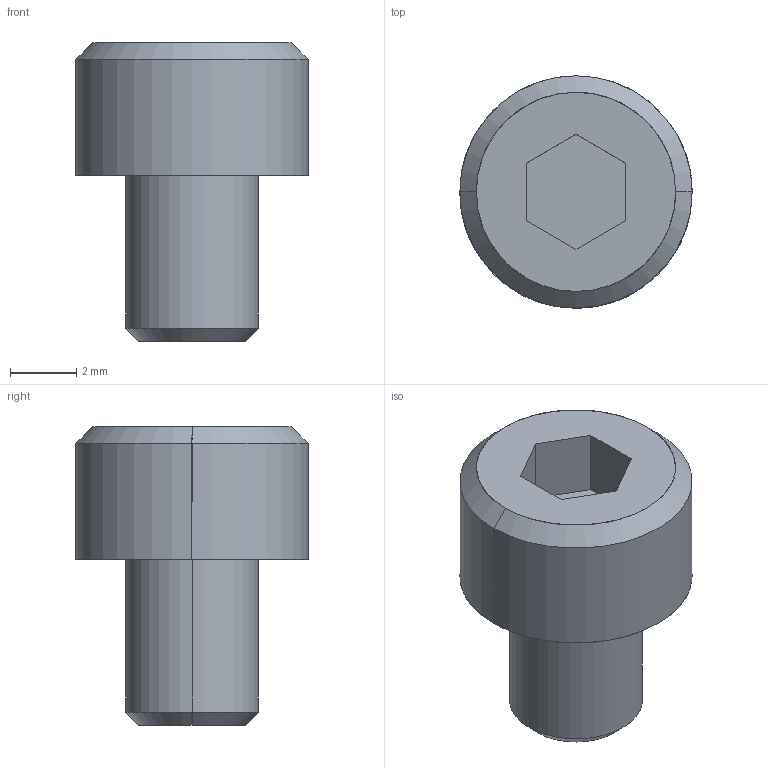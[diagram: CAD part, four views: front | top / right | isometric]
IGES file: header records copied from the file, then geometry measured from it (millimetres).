
Global section: file name: E:\UnigraphicsGraphicData\MISUMI_PRESS-PARTS\IGES\3d_cb4-5_00440_r00.igs; native system: NX V5.0; preprocessor: UGS NX IGES V5.0; author: MISUMI; date: 20110105.160147; units: millimetre
Bounding box: 7 x 7 x 9 mm (x, y, z)
Surface area: 238.8 mm2 (no closed solid volume)
Topology: 0 solids, 0 shells, 18 faces, 100 edges, 100 vertices
Faces by surface type: bspline 18
